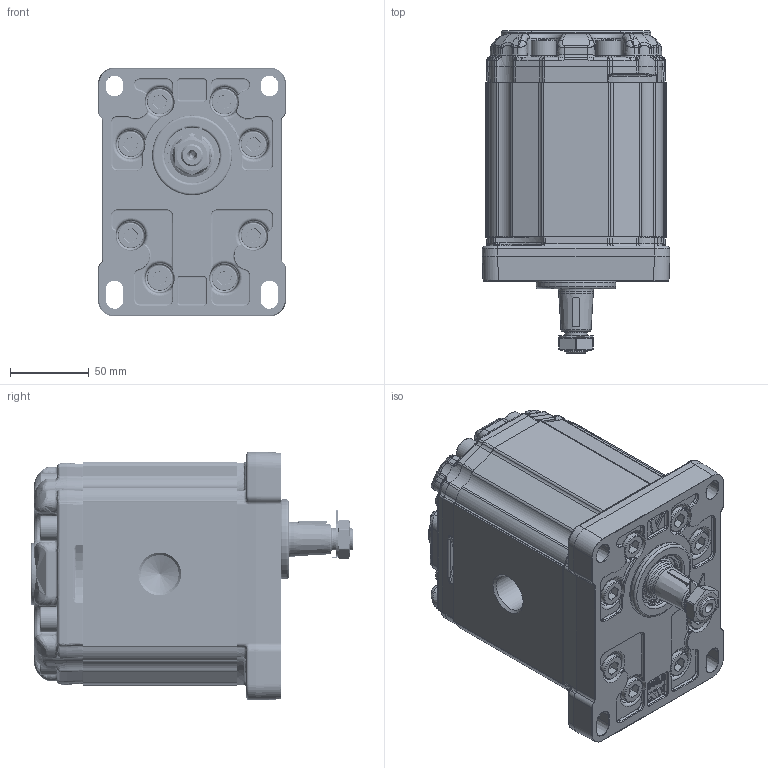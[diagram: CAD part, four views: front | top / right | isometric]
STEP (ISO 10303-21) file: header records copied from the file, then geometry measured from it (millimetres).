
FILE_DESCRIPTION(/* description */ ('Unknown'),/* implementation_level */ '2;1');
FILE_NAME(/* name */ 'X3P8201AEDA',/* time_stamp */ '2023-09-08T14:39:15+02:00',/* author */ ('Unknown'),/* organization */ ('Unknown'),/* preprocessor_version */ 'ST-DEVELOPER v16.7',/* originating_system */ 'Solid Edge',/* authorisation */ 'Unknown');
FILE_SCHEMA (('AUTOMOTIVE_DESIGN {1 0 10303 214 3 1 1}'));
Products named in the file (5): X3P8201AEDA; X3P01; 3A; X3EDH98; XP301-A
Assembly tree (4 placements, depth 2):
  X3P8201AEDA
    X3P01
    3A
    X3EDH98
    XP301-A
Bounding box: 119.2 x 205 x 157.8 mm (x, y, z)
Volume: 2271030.2 mm3; surface area: 226543.6 mm2
Topology: 4 solids, 5 shells, 4574 faces, 14022 edges, 8764 vertices
Faces by surface type: cylinder 1835, plane 1392, bspline 997, torus 200, cone 137, sphere 13
Full cylindrical faces by diameter (mm): 2 x2, 10 x16, 10.35 x30, 10.5 x1, 14 x2, 15.8 x16, 16 x16, 22 x1, 24.117 x2, 24.98 x1, 25 x2, 25.968 x1, 28.16 x1, 30.291 x1, 31 x1, 31.293 x1, 32.742 x1, 34.956 x1, 35 x1, 35.2 x1, 37 x1, 50.8 x1
Entity records: 310275 total; most frequent: CARTESIAN_POINT 163734, ORIENTED_EDGE 27126, DIRECTION 20341, EDGE_CURVE 13563, VERTEX_POINT 8627, AXIS2_PLACEMENT_3D 7741, FACE_BOUND 5022, EDGE_LOOP 5018
